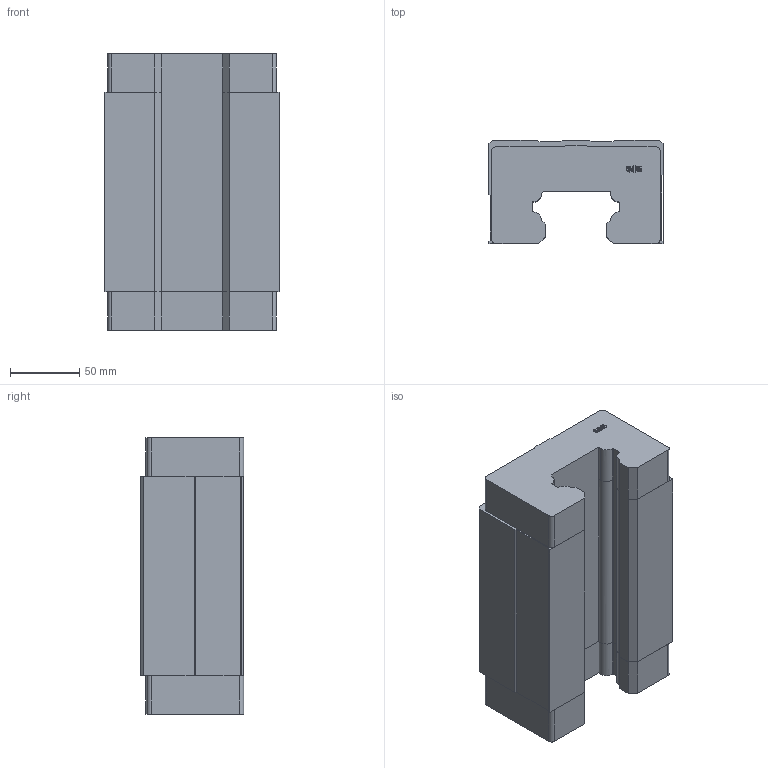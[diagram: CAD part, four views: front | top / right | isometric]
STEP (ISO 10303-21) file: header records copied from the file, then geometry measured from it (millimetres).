
FILE_DESCRIPTION (( 'STEP AP203' ), '1' );
FILE_NAME ('SMH65B.stp', '2019-09-25T05:53:27', ( 'pgos' ), ( '' ), 'SwSTEP 2.0', 'SolidWorks 2014', '' );
FILE_SCHEMA (( 'CONFIG_CONTROL_DESIGN' ));
Length unit declared in the file: millimetre
Products named in the file (1): SMH65B
Bounding box: 126 x 75 x 200.2 mm (x, y, z)
Volume: 1414813.3 mm3; surface area: 130746.8 mm2
Topology: 1 solids, 1 shells, 248 faces, 695 edges, 459 vertices
Faces by surface type: plane 162, bspline 54, cylinder 32
Entity records: 10549 total; most frequent: CARTESIAN_POINT 4412, ORIENTED_EDGE 1390, DIRECTION 1030, EDGE_CURVE 695, LINE 512, VECTOR 512, VERTEX_POINT 459, EDGE_LOOP 260
